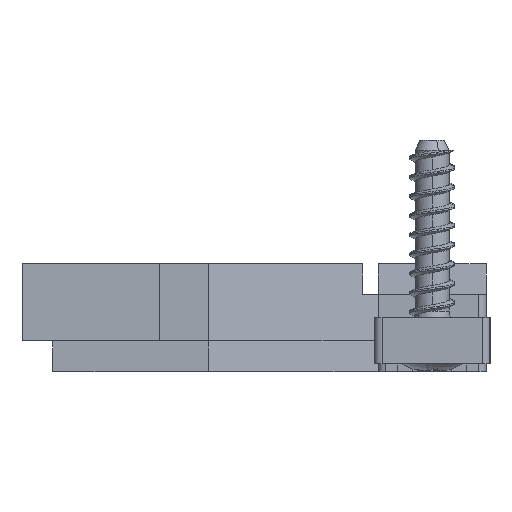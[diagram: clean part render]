
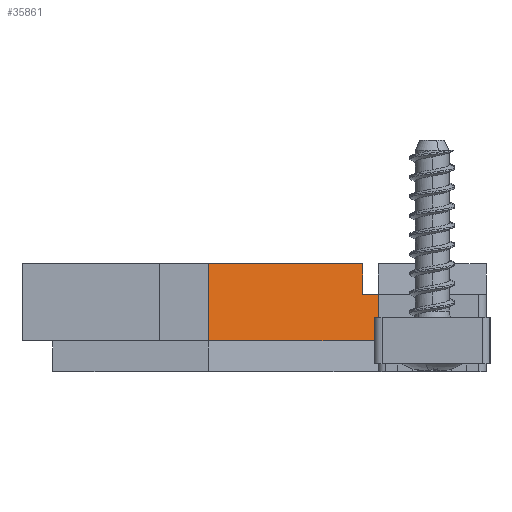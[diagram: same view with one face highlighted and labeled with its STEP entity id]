
A CAD part, left-side view. The second image highlights one B-rep face of the part: STEP entity #35861.
In plain terms, the highlighted planar face has unit normal (-0.918, -0.396, 0).
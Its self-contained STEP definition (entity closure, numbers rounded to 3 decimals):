
#27071=CARTESIAN_POINT(' ',(-16.,-12.1,5.));
#27072=VERTEX_POINT(' ',#27071);
#27086=CARTESIAN_POINT(' ',(-16.,-12.1,5.));
#27091=DIRECTION(' ',(0.396,-0.918,0.));
#27096=VECTOR(' ',#27091,1.);
#27101=LINE('',#27086,#27096);
#27106=CARTESIAN_POINT(' ',(-11.682,-22.1,5.));
#27107=VERTEX_POINT(' ',#27106);
#27111=EDGE_CURVE(' ',#27072,#27107,#27101,.T.);
#27256=CARTESIAN_POINT(' ',(-11.682,-22.1,3.));
#27257=VERTEX_POINT(' ',#27256);
#27281=CARTESIAN_POINT(' ',(-11.682,-22.1,5.));
#27286=DIRECTION(' ',(0.,0.,-1.));
#27291=VECTOR(' ',#27286,1.);
#27296=LINE('',#27281,#27291);
#27301=EDGE_CURVE(' ',#27107,#27257,#27296,.T.);
#27416=CARTESIAN_POINT(' ',(-11.682,-22.1,3.));
#27421=DIRECTION(' ',(0.396,-0.918,0.));
#27426=VECTOR(' ',#27421,1.);
#27431=LINE('',#27416,#27426);
#27436=CARTESIAN_POINT(' ',(-11.25,-23.1,3.));
#27437=VERTEX_POINT(' ',#27436);
#27441=EDGE_CURVE(' ',#27257,#27437,#27431,.T.);
#31851=CARTESIAN_POINT(' ',(-11.25,-23.1,0.));
#31852=VERTEX_POINT(' ',#31851);
#31866=CARTESIAN_POINT(' ',(-16.,-12.1,0.));
#31871=DIRECTION(' ',(0.396,-0.918,0.));
#31876=VECTOR(' ',#31871,1.);
#31881=LINE('',#31866,#31876);
#31886=CARTESIAN_POINT(' ',(-16.,-12.1,0.));
#31887=VERTEX_POINT(' ',#31886);
#31891=EDGE_CURVE(' ',#31887,#31852,#31881,.T.);
#35671=CARTESIAN_POINT(' ',(-16.,-12.1,5.));
#35676=DIRECTION(' ',(0.,0.,-1.));
#35681=VECTOR(' ',#35676,1.);
#35686=LINE('',#35671,#35681);
#35691=EDGE_CURVE(' ',#27072,#31887,#35686,.T.);
#35771=CARTESIAN_POINT(' ',(-11.25,-23.1,0.));
#35776=DIRECTION(' ',(-0.918,-0.396,0.));
#35781=DIRECTION(' ',(0.,0.,1.));
#35786=AXIS2_PLACEMENT_3D(' ',#35771,#35776,#35781);
#35791=PLANE(' ',#35786);
#35796=CARTESIAN_POINT(' ',(-11.25,-23.1,3.));
#35801=DIRECTION(' ',(0.,0.,-1.));
#35806=VECTOR(' ',#35801,1.);
#35811=LINE('',#35796,#35806);
#35816=EDGE_CURVE(' ',#27437,#31852,#35811,.T.);
#35821=ORIENTED_EDGE(' ',*,*,#35816,.F.);
#35826=ORIENTED_EDGE(' ',*,*,#27441,.F.);
#35831=ORIENTED_EDGE(' ',*,*,#27301,.F.);
#35836=ORIENTED_EDGE(' ',*,*,#27111,.F.);
#35841=ORIENTED_EDGE(' ',*,*,#35691,.T.);
#35846=ORIENTED_EDGE(' ',*,*,#31891,.T.);
#35851=EDGE_LOOP(' ',(#35821,#35826,#35831,#35836,#35841,#35846));
#35856=FACE_OUTER_BOUND(' ',#35851,.T.);
#35861=ADVANCED_FACE('',(#35856),#35791,.T.);
